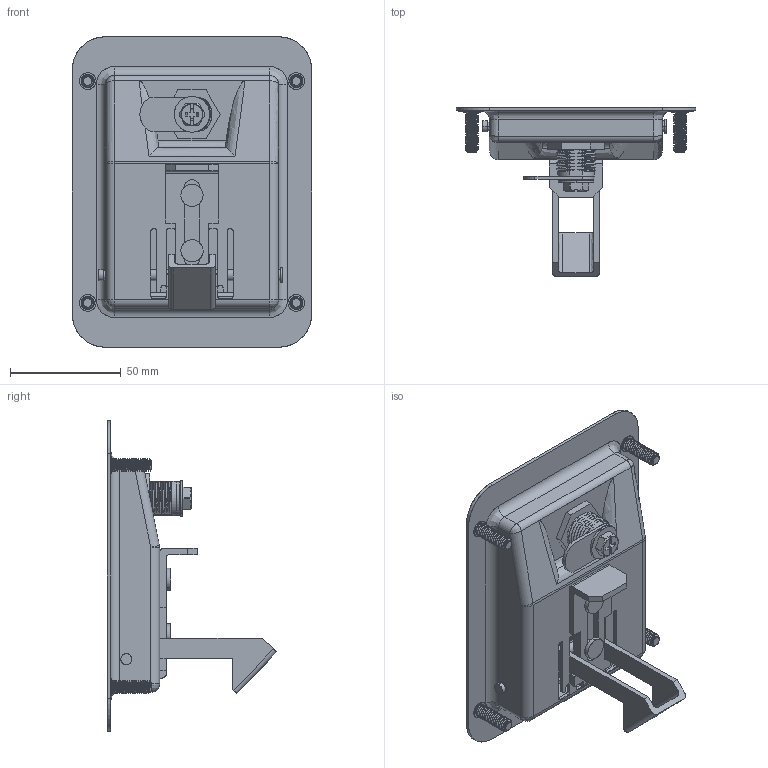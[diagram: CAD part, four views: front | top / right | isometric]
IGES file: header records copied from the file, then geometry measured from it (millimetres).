
Start section: SolidWorks IGES file using analytic representation for surfaces
Global section: file name: D:\尚坤工业图纸\SK1--门锁系列\SK1-5004-55\SK1-5004-55.IGS; native system: SolidWorks 2015; preprocessor: SolidWorks 2015; author: admin; date: 181101.114154; units: millimetre
Bounding box: 108 x 76.39 x 140 mm (x, y, z)
Surface area: 69243.8 mm2 (no closed solid volume)
Topology: 0 solids, 0 shells, 661 faces, 9541 edges, 9532 vertices
Faces by surface type: revolution 382, bspline 279
